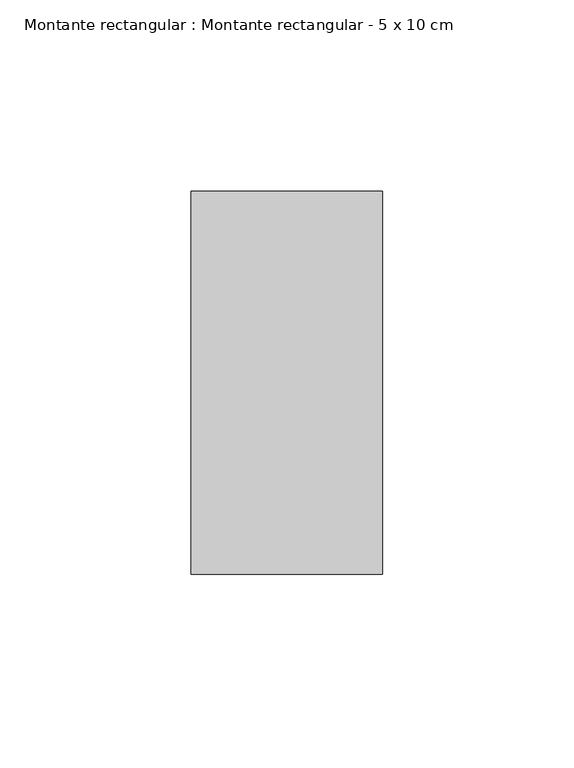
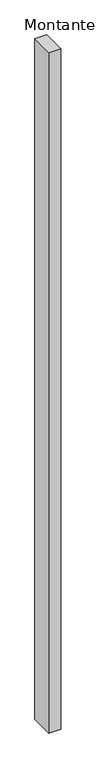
"""IFC4 building model written with IfcOpenShell, lengths in millimetres: member geometry, Montante rectangular : Montante rectangular - 5 x 10 cm."""

from ifc_helpers import new_model, si_unit, frame, origin, place, context, project, spatial, polyline, outline, extrude, source, transform, mapped, element, save


def montante_rectangular_montante_rectangular_5_x_10_cm_7540c517(model_context):
    return source(origin(), model_context, "Body", "SweptSolid", [
        extrude(outline(polyline([(-50.0, 50.0), (0.0, 50.0), (0.0, -50.0), (-50.0, -50.0), (-50.0, 50.0)])), frame((0.0, 0.0, -3000.0), z_axis=(0.0, 0.0, 1.0), x_axis=(1.0, 0.0, 0.0)), (0.0, 0.0, 1.0), 3000.0),
    ])


if __name__ == "__main__":
    model = new_model("IFC4")
    model_context = context("Model", 3, world=origin())
    ifc_project = project(units=[si_unit("LENGTHUNIT", "METRE", prefix="MILLI")], contexts=[model_context])
    site = spatial("IfcSite", under=ifc_project)
    building = spatial("IfcBuilding", under=site)
    placement = place(None, origin())
    montante_rectangular_montante_rectangular_5_x_10_cm_shape = montante_rectangular_montante_rectangular_5_x_10_cm_7540c517(model_context)
    element("IfcMember", 1, ObjectType="Montante rectangular : Montante rectangular - 5 x 10 cm", at=placement, inside=building, context=model_context, shape_type="MappedRepresentation", body=[
        mapped(montante_rectangular_montante_rectangular_5_x_10_cm_shape, transform((0.0, 0.0, 0.0), x_axis=(1.0, 0.0, 0.0), y_axis=(0.0, 1.0, 0.0), z_axis=(0.0, 0.0, 1.0))),
    ])
    save(model, "model.ifc")
